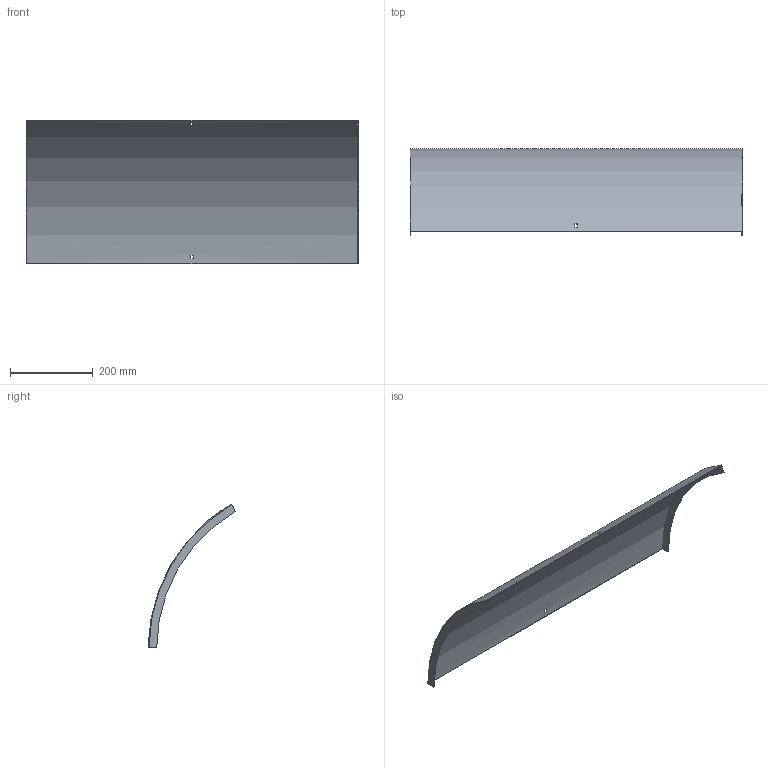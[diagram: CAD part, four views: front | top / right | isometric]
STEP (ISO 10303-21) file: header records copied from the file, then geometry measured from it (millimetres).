
FILE_DESCRIPTION (( 'STEP AP214' ), '1' );
FILE_NAME ('B2_41N3D800.step', '2025-02-21T10:41:57', ( '' ), ( '' ), 'SwSTEP 2.0', 'SolidWorks 2023', '' );
FILE_SCHEMA (( 'AUTOMOTIVE_DESIGN' ));
Length unit declared in the file: millimetre
Products named in the file (1): B2_41N3D800
Bounding box: 803 x 210.75 x 347.71 mm (x, y, z)
Volume: 528020.3 mm3; surface area: 707841 mm2
Topology: 1 solids, 1 shells, 18 faces, 48 edges, 32 vertices
Faces by surface type: plane 14, cylinder 4
Entity records: 599 total; most frequent: DIRECTION 102, CARTESIAN_POINT 99, ORIENTED_EDGE 96, EDGE_CURVE 48, AXIS2_PLACEMENT_3D 35, VERTEX_POINT 32, VECTOR 32, LINE 32
